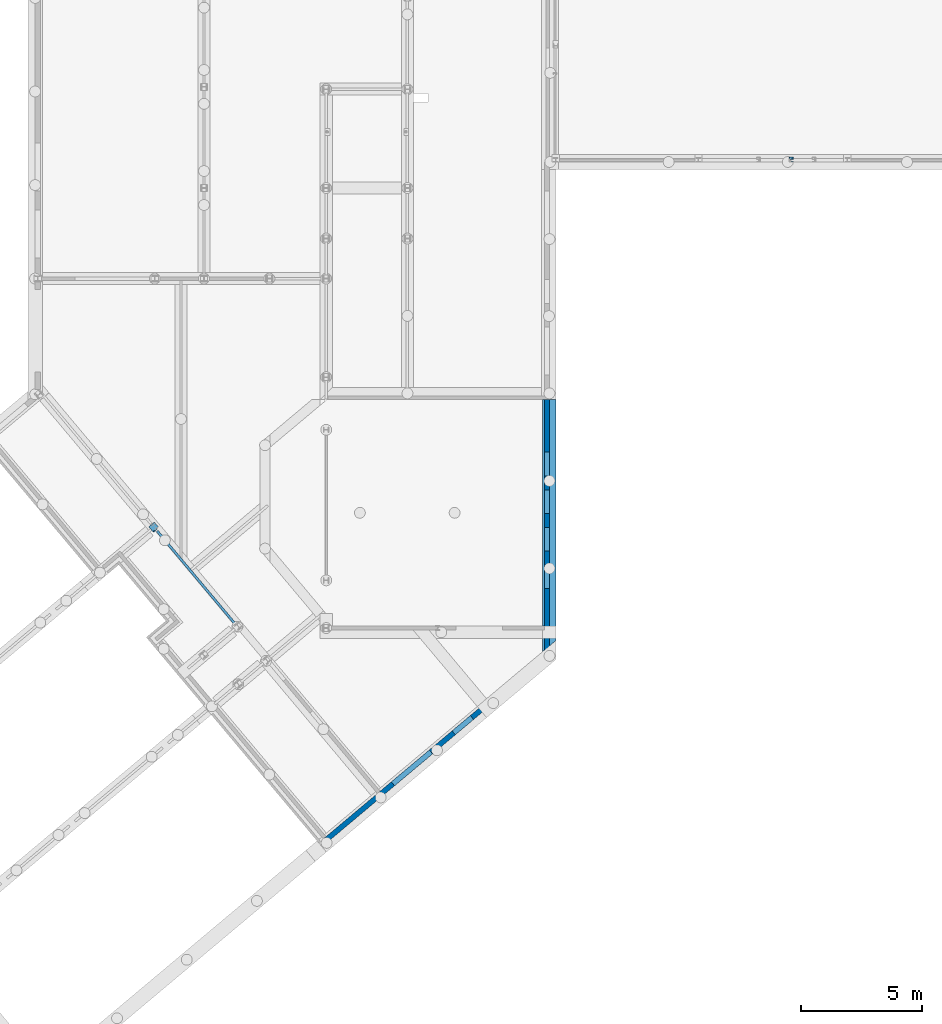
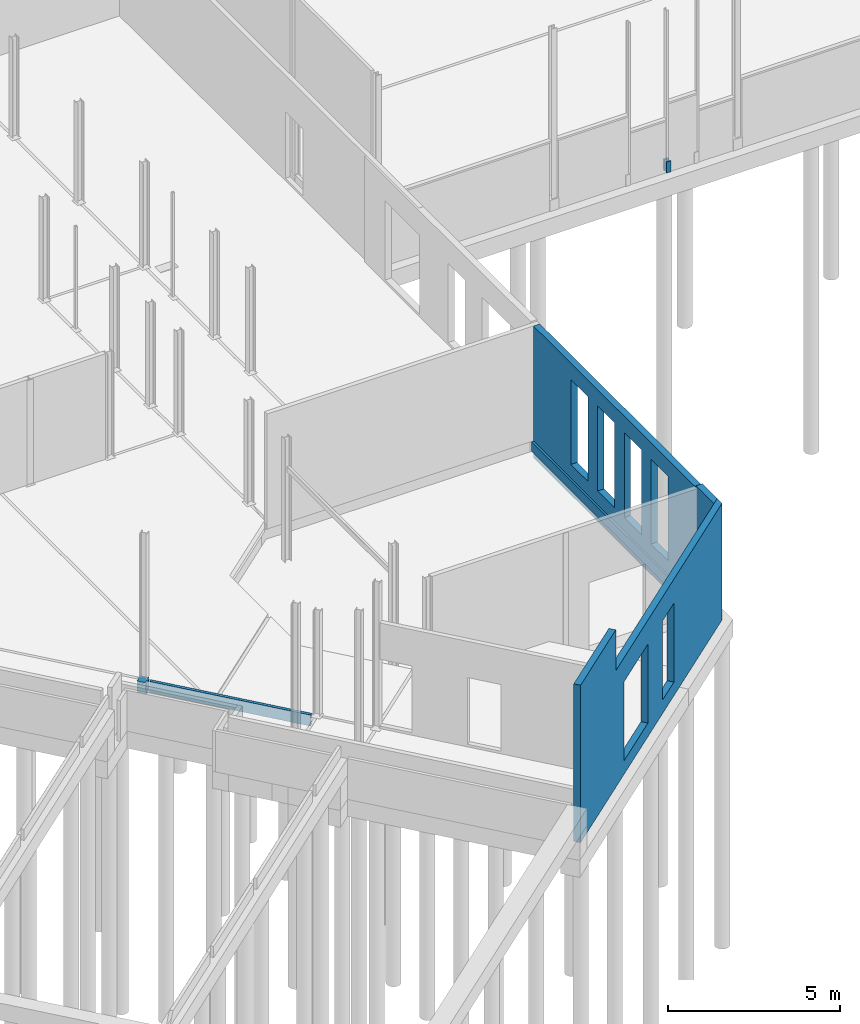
# One storey, part 18 of 18: 2 beams, 2 columns, 2 walls.
"""IFC2X3 building model written with IfcOpenShell, lengths in millimetres."""

from ifc_helpers import new_model, entity, si_unit, converted_unit, derived_unit, direction, frame, origin, place, context, subcontext, project, spatial, faceted_brep, source, transform, mapped, material, layer, layer_set, type_object, type_shapes, element, save


model = new_model("IFC2X3")

# Units and contexts
model_context = context("Model", 3, precision=0.01, world=origin(), true_north=direction((6.12303176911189e-17, 1.0)))
body_context = subcontext(model_context, "Body", "Model", "MODEL_VIEW")
ifc_project = project(units=[si_unit("LENGTHUNIT", "METRE", prefix="MILLI"), si_unit("AREAUNIT", "SQUARE_METRE"), si_unit("VOLUMEUNIT", "CUBIC_METRE"), converted_unit("PLANEANGLEUNIT", "DEGREE", entity("IfcRatioMeasure", 0.0174532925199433), si_unit("PLANEANGLEUNIT", "RADIAN"), dimensions=[0, 0, 0, 0, 0, 0, 0]), si_unit("MASSUNIT", "GRAM", prefix="KILO"), derived_unit("MASSDENSITYUNIT", [(si_unit("MASSUNIT", "GRAM", prefix="KILO"), 1), (si_unit("LENGTHUNIT", "METRE"), -3)]), derived_unit("MOMENTOFINERTIAUNIT", [(si_unit("LENGTHUNIT", "METRE"), 4)]), si_unit("TIMEUNIT", "SECOND"), si_unit("FREQUENCYUNIT", "HERTZ"), si_unit("THERMODYNAMICTEMPERATUREUNIT", "DEGREE_CELSIUS"), derived_unit("THERMALTRANSMITTANCEUNIT", [(si_unit("MASSUNIT", "GRAM", prefix="KILO"), 1), (si_unit("THERMODYNAMICTEMPERATUREUNIT", "KELVIN"), -1), (si_unit("TIMEUNIT", "SECOND"), -3)]), derived_unit("VOLUMETRICFLOWRATEUNIT", [(si_unit("LENGTHUNIT", "METRE"), 3), (si_unit("TIMEUNIT", "SECOND"), -1)]), si_unit("ELECTRICCURRENTUNIT", "AMPERE"), si_unit("ELECTRICVOLTAGEUNIT", "VOLT"), si_unit("POWERUNIT", "WATT"), si_unit("FORCEUNIT", "NEWTON", prefix="KILO"), si_unit("ILLUMINANCEUNIT", "LUX"), si_unit("LUMINOUSFLUXUNIT", "LUMEN"), si_unit("LUMINOUSINTENSITYUNIT", "CANDELA"), derived_unit("USERDEFINED", [(si_unit("MASSUNIT", "GRAM", prefix="KILO"), -1), (si_unit("LENGTHUNIT", "METRE"), -2), (si_unit("TIMEUNIT", "SECOND"), 3), (si_unit("LUMINOUSFLUXUNIT", "LUMEN"), 1)]), derived_unit("LINEARVELOCITYUNIT", [(si_unit("LENGTHUNIT", "METRE"), 1), (si_unit("TIMEUNIT", "SECOND"), -1)]), si_unit("PRESSUREUNIT", "PASCAL"), derived_unit("USERDEFINED", [(si_unit("LENGTHUNIT", "METRE"), -2), (si_unit("MASSUNIT", "GRAM", prefix="KILO"), 1), (si_unit("TIMEUNIT", "SECOND"), -2)]), derived_unit("LINEARFORCEUNIT", [(si_unit("MASSUNIT", "GRAM", prefix="KILO"), 1), (si_unit("LENGTHUNIT", "METRE"), 1), (si_unit("TIMEUNIT", "SECOND"), -2), (si_unit("LENGTHUNIT", "METRE"), -1)]), derived_unit("PLANARFORCEUNIT", [(si_unit("MASSUNIT", "GRAM", prefix="KILO"), 1), (si_unit("LENGTHUNIT", "METRE"), 1), (si_unit("TIMEUNIT", "SECOND"), -2), (si_unit("LENGTHUNIT", "METRE"), -2)])], contexts=[model_context])

# Site, building, storey
site_placement = place(None, origin())
site = spatial("IfcSite", under=ifc_project, at=site_placement, Name="Default", CompositionType="ELEMENT")
building_placement = place(site_placement, origin())
building = spatial("IfcBuilding", under=site, at=building_placement, CompositionType="ELEMENT")
storey_placement = place(building_placement, frame((0.0, 0.0, -1085.0)))
storey = spatial("IfcBuildingStorey", under=building, at=storey_placement, Name="-00 fundatie", CompositionType="ELEMENT", Elevation=-1085.0)

# Columns
ifc_material_1 = material(Name="<Unnamed>")
column_type_1 = type_object("IfcColumnType", Name="BERSnl_28_SCO_TLB_kolom vierkant beton_gen_ISR:300x300", PredefinedType="COLUMN", material=ifc_material_1)
shared_shape_1 = source(origin(), body_context, "Body", "Brep", [
    faceted_brep([(393.713204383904, 227.321355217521, 395.0), (229.813332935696, 422.649615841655, 395.0), (153.791894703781, 358.860055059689, 395.0), (76.8959473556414, 294.336694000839, 395.0), (1.35042647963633, 230.946475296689, 395.0), (64.9176823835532, 152.447451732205, 395.0), (128.546552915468, 76.6175166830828, 395.0), (163.899871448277, 34.4850723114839, 395.0), (235.77570046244, 94.7960539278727, 395.0), (264.71211192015, 60.310981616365, 395.0), (346.628177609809, 129.046722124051, 395.0), (317.691766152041, 163.531794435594, 395.0), (229.813332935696, 422.649615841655, 0.0), (393.702235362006, 227.334427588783, 0.0), (317.680797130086, 163.544866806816, 0.0), (346.62817760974, 129.046722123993, 0.0), (264.712111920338, 60.3109816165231, 0.0), (192.836282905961, 0.0, 0.0), (128.556342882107, 76.6058494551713, 0.0), (0.0, 229.813332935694, 0.0), (153.791894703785, 358.860055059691, 0.0), (0.0, 229.813332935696, 130.0), (1.35042647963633, 230.946475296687, 130.0), (229.813332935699, 422.649615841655, 130.0), (192.836282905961, 0.0, 130.0), (163.899871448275, 34.4850723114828, 130.0), (64.9176823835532, 152.447451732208, 130.0), (264.712111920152, 60.3109816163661, 130.0), (393.705845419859, 227.330125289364, 130.000000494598), (317.691766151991, 163.531794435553, 0.0), (317.691766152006, 163.531794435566, 130.0), (235.775700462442, 94.7960539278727, 130.0)], [[[0, 1, 2, 3, 4, 5, 6, 7, 8, 9, 10, 11]], [[12, 13, 14, 15, 16, 17, 18, 19, 20]], [[19, 21, 22, 4, 3, 2, 1, 23, 12, 20]], [[21, 19, 18, 17, 24, 25, 7, 6, 5, 26]], [[15, 10, 9, 27, 24, 17, 16]], [[1, 0, 28, 13, 12, 23]], [[22, 21, 26]], [[11, 10, 15, 29, 30]], [[0, 11, 30, 14, 13, 28]], [[31, 25, 24, 27]], [[8, 31, 27, 9]], [[25, 31, 8, 7]], [[22, 26, 5, 4]]]),
])
type_shapes(column_type_1, [shared_shape_1])
column_1_placement = place(storey_placement, frame((18291.8230345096, 5701.61816721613, 600.0)))
element("IfcColumn", 1, at=column_1_placement, inside=storey, type_object=column_type_1, material=ifc_material_1, Name="BERSnl_28_SCO_TLB_kolom vierkant beton_gen_ISR:300x300", ObjectType="BERSnl_28_SCO_TLB_kolom vierkant beton_gen_ISR:300x300", context=body_context, shape_type="MappedRepresentation", body=[
    mapped(shared_shape_1, transform((0.0, 0.0, 0.0), scale=1.0)),
])
ifc_material_2 = material(Name="f2_beton")
column_type_2 = type_object("IfcColumnType", Name="BERSnl_28_SCO_TLB_kolom vierkant beton_gen_ISR:200x150", PredefinedType="COLUMN", material=ifc_material_2)
shared_shape_2 = source(origin(), body_context, "Body", "Brep", [
    faceted_brep([(150.0, 200.0, 395.0), (2.46910214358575, 200.0, 395.0), (2.46910214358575, 120.0, 395.0), (150.0, 120.0, 395.0), (0.0, 200.0, 130.0), (0.0, 200.0, 0.0), (0.0, 120.0, 0.0), (0.0, 120.0, 130.0), (150.0, 200.0, 0.0), (2.46910214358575, 200.0, 130.0), (150.0, 200.0, 130.0), (2.46910214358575, 120.0, 130.0), (150.0, 120.0, 0.0), (150.0, 120.0, 130.0)], [[[0, 1, 2, 3]], [[4, 5, 6, 7]], [[8, 5, 4, 9, 1, 0, 10]], [[4, 7, 11, 9]], [[9, 11, 2, 1]], [[3, 2, 11, 7, 6, 12, 13]], [[5, 8, 12, 6]], [[8, 10, 0, 3, 13, 12]]]),
    faceted_brep([(150.0, 0.0, 0.0), (0.0, 0.0, 0.0), (0.0, 20.0, 0.0), (150.0, 20.0, 0.0), (150.0, 0.0, 395.0), (0.0, 0.0, 395.0), (150.0, 20.0, 395.0), (0.0, 20.0, 395.0)], [[[0, 1, 2, 3]], [[4, 5, 1, 0]], [[4, 0, 3, 6]], [[7, 6, 3, 2]], [[5, 4, 6, 7]], [[1, 5, 7, 2]]]),
])
type_shapes(column_type_2, [shared_shape_2])
column_2_placement = place(storey_placement, frame((44743.4270571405, 20996.2966282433, 600.0)))
element("IfcColumn", 2, at=column_2_placement, inside=storey, type_object=column_type_2, material=ifc_material_2, Name="BERSnl_28_SCO_TLB_kolom vierkant beton_gen_ISR:200x150", ObjectType="BERSnl_28_SCO_TLB_kolom vierkant beton_gen_ISR:200x150", context=body_context, shape_type="MappedRepresentation", body=[
    mapped(shared_shape_2, transform((0.0, 0.0, 0.0), scale=1.0)),
])

# Beams
ifc_material_3 = material(Name="f2_beton ihwg")
beam_type_1 = type_object("IfcBeamType", Name="BERSnl_28_SF_LIB_balk vierkant beton_gen_ISR:balk vierkant_gen_560x600", PredefinedType="JOIST")
beam_1_placement = place(storey_placement, frame((34553.4270571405, 778.694747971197, 0.0), z_axis=(0.0, 0.0, 1.0), x_axis=(0.0, 1.0, 0.0)))
element("IfcBeam", 3, at=beam_1_placement, inside=storey, type_object=beam_type_1, material=ifc_material_3, Name="BERSnl_28_SF_LIB_balk vierkant beton_gen_ISR:balk vierkant_gen_560x600", ObjectType="BERSnl_28_SF_LIB_balk vierkant beton_gen_ISR:balk vierkant_gen_560x600", context=body_context, shape_type="Brep", body=[
    faceted_brep([(0.0, 0.0, 600.0), (469.895793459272, -560.0, 600.0), (10413.6018802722, -560.0, 600.0), (10413.6018802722, -280.0, 600.0), (10413.6018802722, -66.0, 600.0), (10413.6018802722, 0.0, 600.0), (1048.60188030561, 0.0, 600.0), (1048.60188030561, -66.0, 600.0), (898.601880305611, -66.0, 600.0), (898.601880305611, 0.0, 600.0), (1048.60188030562, 0.0, 250.0), (1048.60188030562, 0.0, 0.0), (548.601880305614, 0.0, 0.0), (548.601880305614, 0.0, 250.0), (0.0, 0.0, 250.0), (898.601880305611, 0.0, 250.0), (1048.60188030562, -70.0, 0.0), (10413.6018802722, -70.0, 0.0), (10413.6018802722, -560.0, 0.0), (1048.60188030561, -560.0, 0.0), (548.601880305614, -560.0, 0.0), (469.89579345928, -560.0, 0.0), (25.1729889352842, -30.0, 0.0), (548.601880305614, -30.0, 0.0), (25.172988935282, -30.0, 250.0), (10413.6018802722, -70.0, 250.0), (1048.60188030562, -70.0, 250.0), (1048.60188030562, -66.0, 250.0), (10413.6018802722, 0.0, 250.0), (898.601880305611, -66.0, 250.0), (548.601880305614, -30.0, 250.0)], [[[0, 1, 2, 3, 4, 5, 6, 7, 8, 9]], [[10, 11, 12, 13, 14, 0, 9, 15]], [[11, 16, 17, 18, 19, 20, 21, 22, 23, 12]], [[1, 21, 20, 19, 18, 2]], [[1, 0, 14, 24, 22, 21]], [[25, 26, 27, 10, 28]], [[26, 16, 11, 10, 27]], [[26, 25, 17, 16]], [[5, 4, 3, 2, 18, 17, 25, 28]], [[8, 29, 15, 9]], [[10, 27, 7, 6]], [[29, 27, 10, 15]], [[27, 29, 8, 7]], [[28, 10, 6, 5]], [[30, 24, 14, 13]], [[24, 30, 23, 22]], [[23, 30, 13, 12]]]),
])
beam_type_2 = type_object("IfcBeamType", Name="BERSnl_28_SF_LIB_balk vierkant beton_gen_ISR:balk vierkant 100x395", PredefinedType="JOIST")
beam_2_placement = place(storey_placement, frame((18597.8319049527, 1916.25982959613, 600.0), z_axis=(0.0, 0.0, 1.0), x_axis=(-0.642787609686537, 0.76604444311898, 0.0)))
element("IfcBeam", 4, at=beam_2_placement, inside=storey, type_object=beam_type_2, material=ifc_material_3, Name="BERSnl_28_SF_LIB_balk vierkant beton_gen_ISR:balk vierkant 100x395", ObjectType="BERSnl_28_SF_LIB_balk vierkant beton_gen_ISR:balk vierkant 100x395", context=body_context, shape_type="Brep", body=[
    faceted_brep([(-2053.48427849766, -2447.24726623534, 395.0), (-2053.48427849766, -2447.24726623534, 0.0), (-2053.48427849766, -2546.4862058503, 0.0), (-2053.48427849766, -2546.4862058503, 395.0), (2916.51572150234, -2547.24726623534, 0.0), (2916.51572150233, -2447.24726623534, 0.0), (2916.51572150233, -2447.24726623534, 395.0), (2916.51572150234, -2547.24726623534, 395.0), (2916.51572150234, -2547.24726623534, 130.0), (739.120165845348, -2546.48620585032, 395.0), (739.120165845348, -2547.24726623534, 395.0), (839.120165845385, -2547.24726623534, 395.0), (862.515721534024, -2547.24726623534, 395.0), (862.515721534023, -2546.86673604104, 395.0), (1367.51672800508, -2546.86673604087, 395.0), (1367.97022623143, -2547.24726623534, 395.0), (1523.54260891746, -2547.24726623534, 395.0), (1524.145032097, -2547.24726623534, 395.0), (1524.145032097, -2547.24726623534, 0.0), (1523.54260891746, -2547.24726623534, 0.0), (1367.97022623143, -2547.24726623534, 0.0), (1367.06322978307, -2546.48620585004, 0.0), (862.515721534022, -2546.48620585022, 0.0), (862.515721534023, -2547.24726623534, 0.0), (839.120165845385, -2547.24726623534, 0.0), (739.120165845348, -2547.24726623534, 0.0), (739.120165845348, -2546.48620585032, 0.0), (739.120165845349, -2546.48620585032, 130.0), (862.515721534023, -2546.86673604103, 130.0), (862.515721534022, -2546.48620585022, 130.0), (1367.51672800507, -2546.86673604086, 130.0), (1367.06322978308, -2546.48620585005, 130.0)], [[[0, 1, 2, 3]], [[4, 5, 6, 7, 8]], [[7, 6, 0, 3, 9, 10, 11, 12, 13, 14, 15, 16, 17]], [[1, 0, 6, 5]], [[5, 4, 18, 19, 20, 21, 22, 23, 24, 25, 26, 2, 1]], [[10, 25, 24, 23, 12, 11]], [[9, 3, 2, 26, 27]], [[10, 9, 27, 26, 25]], [[28, 13, 12, 23, 22, 29]], [[13, 28, 30, 14]], [[29, 31, 30, 28]], [[31, 29, 22, 21]], [[14, 30, 31, 21, 20, 15]], [[15, 20, 19, 18, 4, 8, 7, 17, 16]]]),
])

# Walls
ifc_material_4 = material(Name="f1_kalkzandsteen")
ifc_layer = layer(ifc_material_4, 214.0)
ifc_layer_set = layer_set([ifc_layer], Name="Basic Wall:BERSnl_22_WA_kalkzandsteen214")
wall_type = type_object("IfcWallType", Name="Basic Wall:BERSnl_22_WA_kalkzandsteen214", PredefinedType="STANDARD", material=ifc_layer_set)
wall_1_placement = place(storey_placement, frame((34726.4270571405, 703.534594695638, 600.0), z_axis=(0.0, 0.0, 1.0), x_axis=(0.0, 1.0, 0.0)))
element("IfcWall", 5, at=wall_1_placement, inside=storey, type_object=wall_type, Name="Basic Wall:BERSnl_22_WA_kalkzandsteen214", ObjectType="Basic Wall:BERSnl_22_WA_kalkzandsteen214", context=body_context, shape_type="Brep", body=[
    faceted_brep([(179.567321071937, -107.0, 0.0), (10488.7620335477, -107.0, 0.0), (10488.7620335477, -107.0, 4075.0), (1048.76203358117, -107.0, 4075.0), (1048.76203358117, -107.0, 4135.0), (179.567321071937, -107.0, 4135.0), (8308.03574275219, -107.0, 485.0), (7322.03574275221, -107.0, 485.0), (7322.03574275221, -107.0, 3495.0), (8308.03574275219, -107.0, 3495.0), (6758.0357427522, -107.0, 485.0), (5772.03574275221, -107.0, 485.0), (5772.03574275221, -107.0, 3495.0), (6758.0357427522, -107.0, 3495.0), (5208.03574275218, -107.0, 485.0), (4222.0357427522, -107.0, 485.0), (4222.0357427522, -107.0, 3495.0), (5208.03574275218, -107.0, 3495.0), (3658.0357427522, -107.0, 485.0), (2672.03574275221, -107.0, 485.0), (2672.03574275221, -107.0, 3495.0), (3658.0357427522, -107.0, 3495.0), (7322.03574275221, 107.0, 485.0), (8308.03574275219, 107.0, 485.0), (8308.03574275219, 107.0, 3495.0), (7322.03574275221, 107.0, 3495.0), (5772.03574275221, 107.0, 485.0), (6758.0357427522, 107.0, 485.0), (6758.0357427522, 107.0, 3495.0), (5772.03574275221, 107.0, 3495.0), (4222.0357427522, 107.0, 485.0), (5208.03574275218, 107.0, 485.0), (5208.03574275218, 107.0, 3495.0), (4222.0357427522, 107.0, 3495.0), (2672.03574275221, 107.0, 485.0), (3658.0357427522, 107.0, 485.0), (3658.0357427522, 107.0, 3495.0), (2672.03574275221, 107.0, 3495.0), (10488.7620335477, 107.0, 4075.0), (10488.7620335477, 107.0, 0.0), (1123.76203358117, 107.0, 0.0), (973.762033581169, 107.0, 0.0), (0.0, 107.0, 0.0), (0.0, 107.0, 4135.0), (1048.76203358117, 107.0, 4135.0), (1048.76203358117, 107.0, 4075.0), (1123.76203358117, 107.0, 4075.0)], [[[0, 1, 2, 3, 4, 5], [6, 7, 8, 9], [10, 11, 12, 13], [14, 15, 16, 17], [18, 19, 20, 21]], [[22, 23, 24, 25], [26, 27, 28, 29], [30, 31, 32, 33], [34, 35, 36, 37], [38, 39, 40, 41, 42, 43, 44, 45, 46]], [[0, 5, 43, 42]], [[6, 23, 22, 7]], [[7, 22, 25, 8]], [[23, 6, 9, 24]], [[10, 27, 26, 11]], [[11, 26, 29, 12]], [[27, 10, 13, 28]], [[14, 31, 30, 15]], [[15, 30, 33, 16]], [[31, 14, 17, 32]], [[18, 35, 34, 19]], [[37, 20, 19, 34]], [[21, 36, 35, 18]], [[8, 25, 24, 9]], [[12, 29, 28, 13]], [[16, 33, 32, 17]], [[20, 37, 36, 21]], [[1, 0, 42, 41, 40, 39]], [[3, 2, 38, 46, 45]], [[4, 3, 45, 44]], [[5, 4, 44, 43]], [[1, 39, 38, 2]]], outer=[[True, False, False, False, False], [False, False, False, False, True], [True], [True], [True], [True], [True], [True], [True], [True], [True], [True], [True], [True], [True], [True], [True], [True], [True], [True], [True], [True], [True], [True]]),
])
wall_2_placement = place(storey_placement, frame((25563.1892980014, -7035.22974881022, 600.0), z_axis=(0.0, 0.0, 1.0), x_axis=(0.76604444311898, 0.642787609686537, 0.0)))
element("IfcWall", 6, at=wall_2_placement, inside=storey, type_object=wall_type, Name="Basic Wall:BERSnl_22_WA_kalkzandsteen214", ObjectType="Basic Wall:BERSnl_22_WA_kalkzandsteen214", context=body_context, shape_type="Brep", body=[
    faceted_brep([(7924.6194037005, -107.0, 485.0), (6938.61940370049, -107.0, 485.0), (6938.61940370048, -107.0, 3285.0), (7924.61940370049, -107.0, 3285.0), (5714.61940370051, -107.0, 485.0), (3664.6194037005, -107.0, 485.0), (3664.6194037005, -107.0, 3285.0), (5714.61940370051, -107.0, 3285.0), (0.0, -107.0, 5585.0), (0.0, -107.0, 1450.0), (0.0, -107.0, 0.0), (12011.6522840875, -107.0, 0.0), (12011.6522840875, -107.0, 4135.0), (2989.619469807, -107.0, 4135.0), (2989.619469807, -107.0, 4395.0), (2989.619469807, -107.0, 5585.0), (2914.61946980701, -107.0, 5585.0), (6938.61940370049, 107.0, 485.0), (7924.61940370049, 107.0, 485.0), (7924.6194037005, 107.0, 3285.0), (6938.61940370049, 107.0, 3285.0), (3664.6194037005, 107.0, 485.0), (5714.6194037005, 107.0, 485.0), (5714.6194037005, 107.0, 3285.0), (3664.6194037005, 107.0, 3285.0), (12191.2196051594, 107.0, 0.0), (11911.8624452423, 107.0, 0.0), (3064.619469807, 107.0, 0.0), (2914.619469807, 107.0, 0.0), (150.0, 107.0, 0.0), (0.0, 107.0, 0.0), (0.0, 107.0, 1450.0), (0.0, 107.0, 1845.0), (0.0, 107.0, 5585.0), (150.0, 107.0, 5585.0), (2914.61946980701, 107.0, 5585.0), (2989.619469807, 107.0, 5585.0), (2989.619469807, 107.0, 4395.0), (2989.619469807, 107.0, 4135.0), (3064.619469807, 107.0, 4135.0), (11911.8624452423, 107.0, 4135.0), (12191.2196051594, 107.0, 4135.0)], [[[0, 1, 2, 3], [4, 5, 6, 7], [8, 9, 10, 11, 12, 13, 14, 15, 16]], [[17, 18, 19, 20], [21, 22, 23, 24], [25, 26, 27, 28, 29, 30, 31, 32, 33, 34, 35, 36, 37, 38, 39, 40, 41]], [[12, 11, 25, 41]], [[0, 18, 17, 1]], [[1, 17, 20, 2]], [[18, 0, 3, 19]], [[4, 22, 21, 5]], [[24, 6, 5, 21]], [[7, 23, 22, 4]], [[2, 20, 19, 3]], [[6, 24, 23, 7]], [[11, 10, 30, 29, 28, 27, 26, 25]], [[13, 12, 41, 40, 39, 38]], [[8, 16, 15, 36, 35, 34, 33]], [[13, 38, 37, 36, 15, 14]], [[8, 33, 32, 31, 30, 10, 9]]], outer=[[False, False, True], [False, False, True], [True], [True], [True], [True], [True], [True], [True], [True], [True], [True], [True], [True], [True], [True]]),
])

save(model, "model.ifc")
